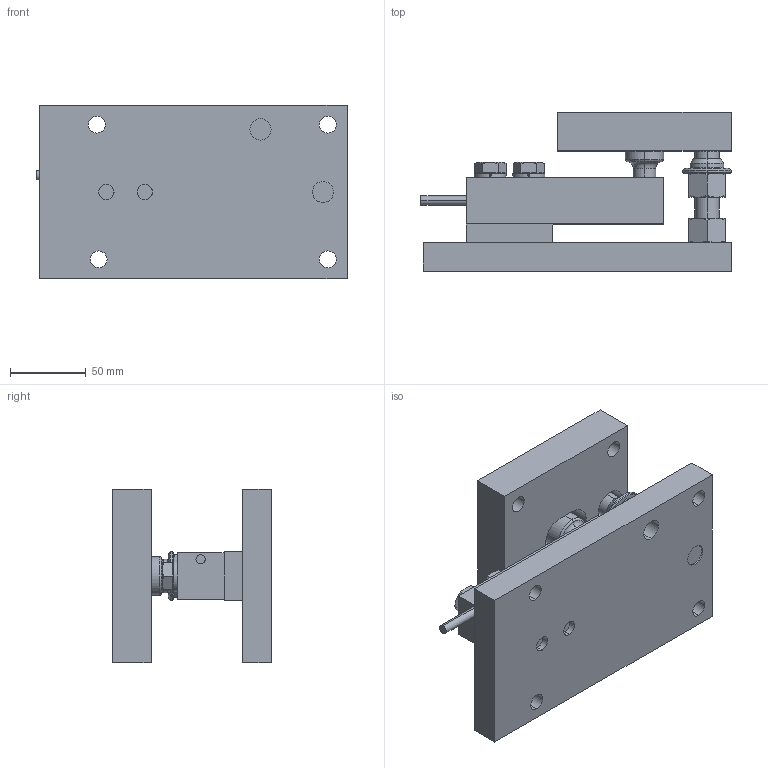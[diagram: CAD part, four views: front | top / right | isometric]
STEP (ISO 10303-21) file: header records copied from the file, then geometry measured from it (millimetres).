
FILE_DESCRIPTION (( 'STEP AP203' ), '1' );
FILE_NAME ('Tank mount 500-2000 kg.STEP', '2020-02-27T14:51:23', ( '' ), ( '' ), 'SwSTEP 2.0', 'SolidWorks 2019', '' );
FILE_SCHEMA (( 'CONFIG_CONTROL_DESIGN' ));
Length unit declared in the file: millimetre
Products named in the file (11): 473101; hex nut gradec_din_Hexagon Nut ISO 4034 - M16 - N; 469377; curved spring lock washer_din_Spring washer DIN 128 - A12; 473103; hex bolt gradeab_din_DIN EN 24014 - M16 x 90 x 38-N; 469046; hex bolt gradeab_din_DIN EN 24014 - M12 x 60 x 30-N; Beam spacer Economount TH 3510 300-2000 kg; Tank mount 500-2000 kg; TH 3510 300-2000 kg
Assembly tree (13 placements, depth 2):
  Tank mount 500-2000 kg
    473103
    Beam spacer Economount TH 3510 300-2000 kg
    469377
    473101
    469046
    TH 3510 300-2000 kg
    hex bolt gradeab_din_DIN EN 24014 - M12 x 60 x 30-N  x2
    curved spring lock washer_din_Spring washer DIN 128 - A12  x2
    hex bolt gradeab_din_DIN EN 24014 - M16 x 90 x 38-N
    hex nut gradec_din_Hexagon Nut ISO 4034 - M16 - N  x2
Bounding box: 204.62 x 104.78 x 114.3 mm (x, y, z)
Volume: 913633.4 mm3; surface area: 158930.9 mm2
Topology: 13 solids, 13 shells, 285 faces, 635 edges, 384 vertices
Faces by surface type: plane 107, cylinder 84, cone 68, torus 24, sphere 2
Entity records: 7744 total; most frequent: CARTESIAN_POINT 1405, DIRECTION 1145, ORIENTED_EDGE 994, EDGE_CURVE 497, AXIS2_PLACEMENT_3D 470, VERTEX_POINT 304, EDGE_LOOP 267, CIRCLE 234
